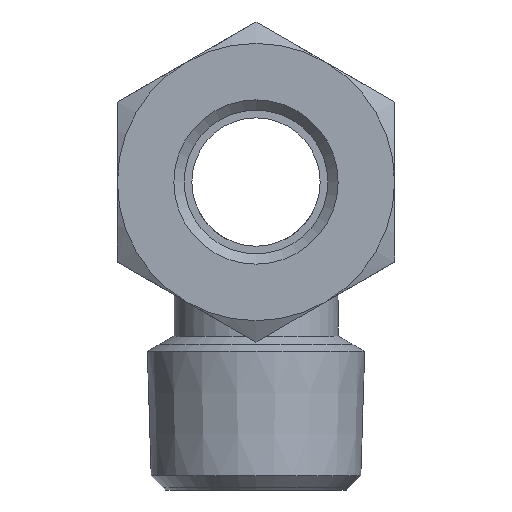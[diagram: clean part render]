
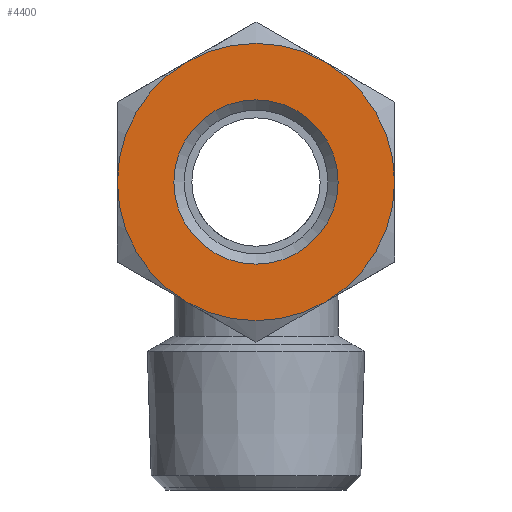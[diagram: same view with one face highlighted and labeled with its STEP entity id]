
A CAD part, left-side view. The second image highlights one B-rep face of the part: STEP entity #4400.
In plain terms, the highlighted planar face has unit normal (-1, 0, 0).
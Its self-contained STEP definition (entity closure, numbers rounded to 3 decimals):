
#4400=ADVANCED_FACE('', (#4410,#4420), #4430, .T.);
#14600=AXIS2_PLACEMENT_3D('Ax2Pl3d', #14610, #14620, #14630);
#14640=AXIS2_PLACEMENT_3D('Ax2Pl3d', #14650, #14660, #14670);
#14680=AXIS2_PLACEMENT_3D('Ax2Pl3d', #14690, #14700, #14710);
#14720=AXIS2_PLACEMENT_3D('Ax2Pl3d', #14730, #14740, #14750);
#14760=AXIS2_PLACEMENT_3D('Ax2Pl3d', #14770, #14780, #14790);
#14800=AXIS2_PLACEMENT_3D('Ax2Pl3d', #14810, #14820, #14830);
#14840=AXIS2_PLACEMENT_3D('Ax2Pl3d', #14850, #14860, #14870);
#14880=AXIS2_PLACEMENT_3D('Ax2Pl3d', #14890, #14900, #14910);
#55190=CARTESIAN_POINT('', (3.626,6.75,20.32));
#55260=CARTESIAN_POINT('', (3.626,13.5,32.011));
#55320=CARTESIAN_POINT('', (3.626,-6.75,20.32));
#55400=CARTESIAN_POINT('', (3.626,-13.5,32.011));
#55450=CARTESIAN_POINT('', (3.626,6.75,43.703));
#55480=CARTESIAN_POINT('', (3.626,-6.75,43.703));
#14610=CARTESIAN_POINT('HicPkt', (3.626,0.,32.011));
#14650=CARTESIAN_POINT('HicPkt', (3.626,-13.5,32.011));
#14690=CARTESIAN_POINT('HicPkt', (3.626,0.,32.011));
#14730=CARTESIAN_POINT('HicPkt', (3.626,0.,32.011));
#14770=CARTESIAN_POINT('HicPkt', (3.626,0.,32.011));
#14810=CARTESIAN_POINT('HicPkt', (3.626,0.,32.011));
#14850=CARTESIAN_POINT('HicPkt', (3.626,0.,32.011));
#14890=CARTESIAN_POINT('HicPkt', (3.626,0.,32.011));
#55490=CARTESIAN_POINT('', (3.626,8.,32.011));
#56550=CIRCLE('Circle', #14600, 13.5);
#56560=CIRCLE('Circle', #14680, 13.5);
#56570=CIRCLE('Circle', #14720, 13.5);
#56580=CIRCLE('Circle', #14760, 13.5);
#56590=CIRCLE('Circle', #14800, 13.5);
#56600=CIRCLE('Circle', #14840, 13.5);
#56610=CIRCLE('Circle', #14880, 8.);
#14620=DIRECTION('Axis', (1.,0.,0.));
#14630=DIRECTION('RefDirection', (0.,-0.,-1.));
#14660=DIRECTION('Axis', (-1.,0.,0.)
);
#14670=DIRECTION('RefDirection', (0.,
0.,-1.));
#14700=DIRECTION('Axis', (1.,0.,0.));
#14710=DIRECTION('RefDirection', (0.,-0.,-1.));
#14740=DIRECTION('Axis', (1.,0.,0.));
#14750=DIRECTION('RefDirection', (0.,-0.,-1.));
#14780=DIRECTION('Axis', (1.,0.,0.));
#14790=DIRECTION('RefDirection', (0.,-0.,-1.));
#14820=DIRECTION('Axis', (1.,0.,0.));
#14830=DIRECTION('RefDirection', (0.,-0.,-1.));
#14860=DIRECTION('Axis', (1.,0.,0.));
#14870=DIRECTION('RefDirection', (0.,-0.,-1.));
#14900=DIRECTION('Axis', (1.,0.,0.));
#14910=DIRECTION('RefDirection', (0.,-0.,-1.));
#69890=EDGE_CURVE('', #69620, #69470, #56550, .T.);
#69900=EDGE_CURVE('', #69860, #69620, #56560, .T.);
#69910=EDGE_CURVE('', #69790, #69860, #56570, .T.);
#69920=EDGE_CURVE('', #69360, #69790, #56580, .T.);
#69930=EDGE_CURVE('', #69230, #69360, #56590, .T.);
#69940=EDGE_CURVE('', #69470, #69230, #56600, .T.);
#69950=EDGE_CURVE('', #69960, #69960, #56610, .T.);
#76340=EDGE_LOOP('Edge_loop', (#76350,#76360,#76370,#76380,#76390,
#76400));
#76410=EDGE_LOOP('Edge_loop', (#76420));
#4420=FACE_BOUND('', #76410, .T.);
#4410=FACE_OUTER_BOUND('Face_outer_bound', #76340, .T.);
#76350=ORIENTED_EDGE('', *, *, #69890, .F.);
#76360=ORIENTED_EDGE('', *, *, #69900, .F.);
#76370=ORIENTED_EDGE('', *, *, #69910, .F.);
#76380=ORIENTED_EDGE('', *, *, #69920, .F.);
#76390=ORIENTED_EDGE('', *, *, #69930, .F.);
#76400=ORIENTED_EDGE('', *, *, #69940, .F.);
#76420=ORIENTED_EDGE('', *, *, #69950, .T.);
#4430=PLANE('Plane', #14640);
#69230=VERTEX_POINT('', #55190);
#69360=VERTEX_POINT('', #55260);
#69470=VERTEX_POINT('', #55320);
#69620=VERTEX_POINT('', #55400);
#69790=VERTEX_POINT('', #55450);
#69860=VERTEX_POINT('', #55480);
#69960=VERTEX_POINT('', #55490);
